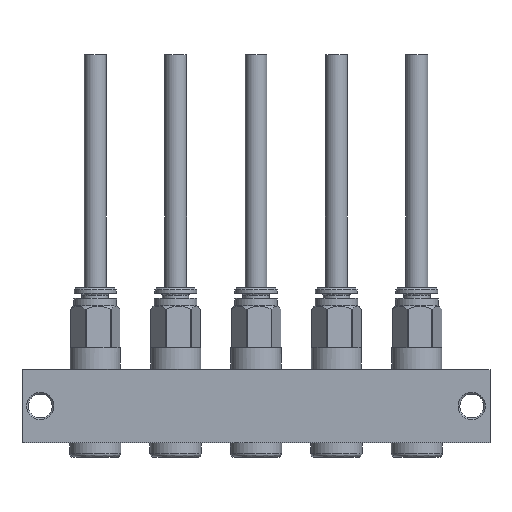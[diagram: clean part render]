
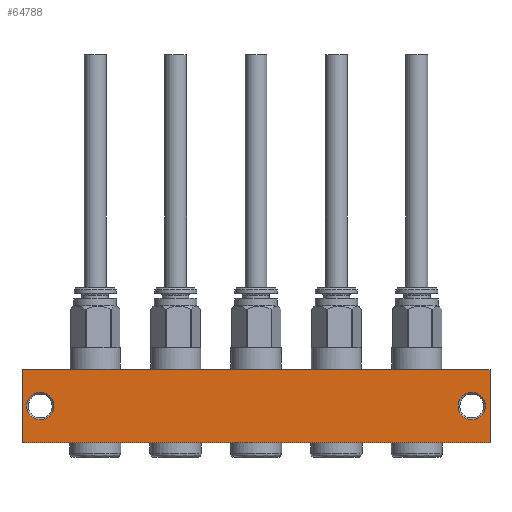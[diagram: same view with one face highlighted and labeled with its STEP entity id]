
A CAD part, front view. The second image highlights one B-rep face of the part: STEP entity #64788.
In plain terms, the highlighted planar face has unit normal (0, -1, 0).
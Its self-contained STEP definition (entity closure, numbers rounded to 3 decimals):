
#615 = VERTEX_POINT ( 'NONE', #54372 ) ;
#646 = ORIENTED_EDGE ( 'NONE', *, *, #62207, .T. ) ;
#991 = EDGE_LOOP ( 'NONE', ( #646 ) ) ;
#2472 = CARTESIAN_POINT ( 'NONE',  ( -59., 0., 3.75 ) ) ;
#2573 = DIRECTION ( 'NONE',  ( 0., 1., 0. ) ) ;
#2769 = ORIENTED_EDGE ( 'NONE', *, *, #61365, .T. ) ;
#3042 = CARTESIAN_POINT ( 'NONE',  ( -64., 0., -10. ) ) ;
#3213 = VERTEX_POINT ( 'NONE', #3042 ) ;
#3240 = ORIENTED_EDGE ( 'NONE', *, *, #65677, .F. ) ;
#4379 = VECTOR ( 'NONE', #6874, 1000. ) ;
#5885 = EDGE_CURVE ( 'NONE', #51890, #51890, #22902, .T. ) ;
#6874 = DIRECTION ( 'NONE',  ( 0., 0., -1. ) ) ;
#7189 = CARTESIAN_POINT ( 'NONE',  ( 64., 0., 10. ) ) ;
#9423 = VERTEX_POINT ( 'NONE', #48612 ) ;
#12320 = PLANE ( 'NONE',  #17262 ) ;
#13228 = EDGE_LOOP ( 'NONE', ( #14396 ) ) ;
#14396 = ORIENTED_EDGE ( 'NONE', *, *, #5885, .T. ) ;
#16421 = CARTESIAN_POINT ( 'NONE',  ( 64., 0., -10. ) ) ;
#16605 = LINE ( 'NONE', #28470, #22119 ) ;
#17262 = AXIS2_PLACEMENT_3D ( 'NONE', #34298, #2573, #46581 ) ;
#17337 = LINE ( 'NONE', #61296, #4379 ) ;
#17605 = CARTESIAN_POINT ( 'NONE',  ( -64., 0., 10. ) ) ;
#18386 = DIRECTION ( 'NONE',  ( 0., 1., 0. ) ) ;
#19528 = FACE_BOUND ( 'NONE', #13228, .T. ) ;
#22119 = VECTOR ( 'NONE', #45091, 1000. ) ;
#22902 = CIRCLE ( 'NONE', #63183, 3.75 ) ;
#23036 = VERTEX_POINT ( 'NONE', #17605 ) ;
#26903 = DIRECTION ( 'NONE',  ( 0., 1., 0. ) ) ;
#28470 = CARTESIAN_POINT ( 'NONE',  ( 64., 0., 10. ) ) ;
#28896 = FACE_OUTER_BOUND ( 'NONE', #40867, .T. ) ;
#30144 = VERTEX_POINT ( 'NONE', #53078 ) ;
#34298 = CARTESIAN_POINT ( 'NONE',  ( 64., 0., 10. ) ) ;
#38440 = DIRECTION ( 'NONE',  ( 0., 0., 1. ) ) ;
#40867 = EDGE_LOOP ( 'NONE', ( #2769, #3240, #58319, #51551 ) ) ;
#45091 = DIRECTION ( 'NONE',  ( 1., 0., 0. ) ) ;
#46101 = VECTOR ( 'NONE', #46494, 1000. ) ;
#46494 = DIRECTION ( 'NONE',  ( 0., 0., -1. ) ) ;
#46581 = DIRECTION ( 'NONE',  ( 0., 0., 1. ) ) ;
#48612 = CARTESIAN_POINT ( 'NONE',  ( 64., 0., 10. ) ) ;
#50690 = EDGE_CURVE ( 'NONE', #23036, #9423, #16605, .T. ) ;
#51186 = LINE ( 'NONE', #7189, #46101 ) ;
#51551 = ORIENTED_EDGE ( 'NONE', *, *, #70446, .T. ) ;
#51890 = VERTEX_POINT ( 'NONE', #2472 ) ;
#53078 = CARTESIAN_POINT ( 'NONE',  ( 64., 0., -10. ) ) ;
#54372 = CARTESIAN_POINT ( 'NONE',  ( 59., 0., 3.75 ) ) ;
#56591 = DIRECTION ( 'NONE',  ( 0., 0., 1. ) ) ;
#57489 = CIRCLE ( 'NONE', #66677, 3.75 ) ;
#58319 = ORIENTED_EDGE ( 'NONE', *, *, #50690, .F. ) ;
#61085 = DIRECTION ( 'NONE',  ( 1., 0., 0. ) ) ;
#61296 = CARTESIAN_POINT ( 'NONE',  ( -64., 0., 10. ) ) ;
#61365 = EDGE_CURVE ( 'NONE', #3213, #30144, #67193, .T. ) ;
#62207 = EDGE_CURVE ( 'NONE', #615, #615, #57489, .T. ) ;
#63183 = AXIS2_PLACEMENT_3D ( 'NONE', #65822, #26903, #38440 ) ;
#64788 = ADVANCED_FACE ( 'NONE', ( #68877, #19528, #28896 ), #12320, .F. ) ;
#65677 = EDGE_CURVE ( 'NONE', #9423, #30144, #51186, .T. ) ;
#65822 = CARTESIAN_POINT ( 'NONE',  ( -59., 0., 0. ) ) ;
#66677 = AXIS2_PLACEMENT_3D ( 'NONE', #67032, #18386, #56591 ) ;
#67032 = CARTESIAN_POINT ( 'NONE',  ( 59., 0., 0. ) ) ;
#67193 = LINE ( 'NONE', #16421, #70081 ) ;
#68877 = FACE_BOUND ( 'NONE', #991, .T. ) ;
#70081 = VECTOR ( 'NONE', #61085, 1000. ) ;
#70446 = EDGE_CURVE ( 'NONE', #23036, #3213, #17337, .T. ) ;
